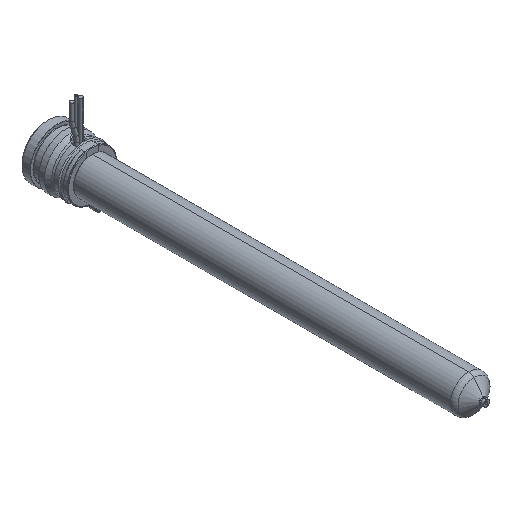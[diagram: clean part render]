
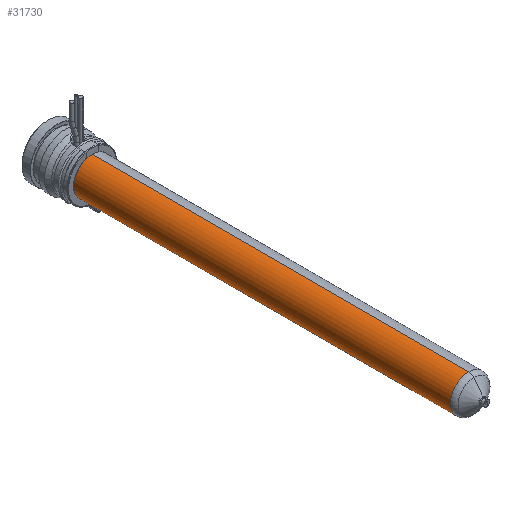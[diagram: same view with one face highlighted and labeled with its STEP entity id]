
A CAD part, isometric view. The second image highlights one B-rep face of the part: STEP entity #31730.
In plain terms, the highlighted cylindrical face has radius 9 mm (diameter 18 mm), a partial arc.
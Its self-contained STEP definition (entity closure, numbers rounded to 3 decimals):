
#31296=CARTESIAN_POINT('',(0.,-205.471,0.));
#31297=DIRECTION('',(0.,-1.,0.));
#31298=DIRECTION('',(0.,0.,1.));
#31299=AXIS2_PLACEMENT_3D('',#31296,#31297,#31298);
#31328=DIRECTION('',(0.,-1.,0.));
#31329=VECTOR('',#31328,183.471);
#31330=CARTESIAN_POINT('',(0.,-22.,9.));
#31331=LINE('',#31330,#31329);
#31343=DIRECTION('',(0.,-1.,0.));
#31344=VECTOR('',#31343,183.471);
#31345=CARTESIAN_POINT('',(0.,-22.,-9.));
#31346=LINE('',#31345,#31344);
#31350=CARTESIAN_POINT('',(0.,-22.,0.));
#31351=DIRECTION('',(0.,-1.,0.));
#31352=DIRECTION('',(0.,0.,1.));
#31353=AXIS2_PLACEMENT_3D('',#31350,#31351,#31352);
#31546=CARTESIAN_POINT('',(0.,-22.,9.));
#31547=CARTESIAN_POINT('',(0.,-205.471,9.));
#31548=VERTEX_POINT('',#31546);
#31549=VERTEX_POINT('',#31547);
#31558=CARTESIAN_POINT('',(0.,-22.,-9.));
#31559=CARTESIAN_POINT('',(0.,-205.471,-9.));
#31560=VERTEX_POINT('',#31558);
#31561=VERTEX_POINT('',#31559);
#31718=CARTESIAN_POINT('',(0.,-8.2,0.));
#31719=DIRECTION('',(0.,-1.,0.));
#31720=DIRECTION('',(0.,0.,1.));
#31721=AXIS2_PLACEMENT_3D('',#31718,#31719,#31720);
#31722=CYLINDRICAL_SURFACE('',#31721,9.);
#31723=ORIENTED_EDGE('',*,*,#31708,.T.);
#31724=ORIENTED_EDGE('',*,*,#31685,.T.);
#31725=ORIENTED_EDGE('',*,*,#31712,.F.);
#31727=ORIENTED_EDGE('',*,*,#31726,.F.);
#31728=EDGE_LOOP('',(#31723,#31724,#31725,#31727));
#31729=FACE_OUTER_BOUND('',#31728,.F.);
#31730=ADVANCED_FACE('',(#31729),#31722,.T.);
#31300=CIRCLE('',#31299,9.);
#31354=CIRCLE('',#31353,9.);
#31685=EDGE_CURVE('',#31549,#31561,#31300,.T.);
#31708=EDGE_CURVE('',#31548,#31549,#31331,.T.);
#31712=EDGE_CURVE('',#31560,#31561,#31346,.T.);
#31726=EDGE_CURVE('',#31548,#31560,#31354,.T.);
